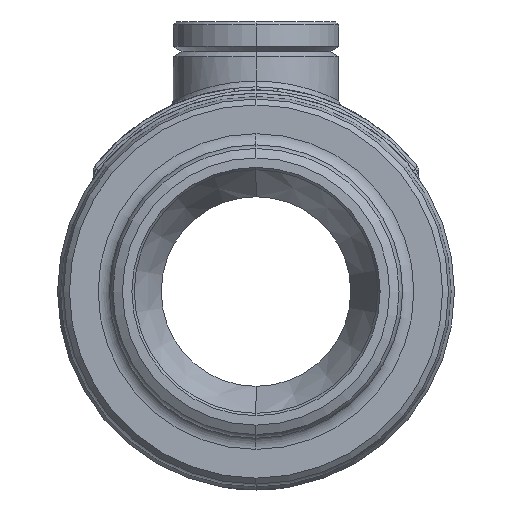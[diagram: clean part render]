
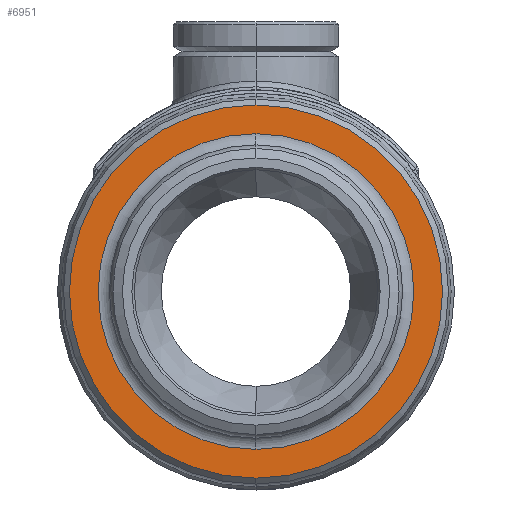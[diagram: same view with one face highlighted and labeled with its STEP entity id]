
A CAD part, left-side view. The second image highlights one B-rep face of the part: STEP entity #6951.
In plain terms, the highlighted planar face has unit normal (-1, 0, 0).
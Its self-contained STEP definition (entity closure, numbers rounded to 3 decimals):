
#995=CARTESIAN_POINT('',(-48.,0.,0.));
#996=DIRECTION('',(-1.,0.,0.));
#997=DIRECTION('',(0.,0.,1.));
#998=AXIS2_PLACEMENT_3D('',#995,#996,#997);
#1000=CARTESIAN_POINT('',(-48.,0.,0.));
#1001=DIRECTION('',(1.,0.,0.));
#1002=DIRECTION('',(0.,0.,1.));
#1003=AXIS2_PLACEMENT_3D('',#1000,#1001,#1002);
#1005=CARTESIAN_POINT('',(-48.,0.,0.));
#1006=DIRECTION('',(1.,0.,0.));
#1007=DIRECTION('',(0.,0.,1.));
#1008=AXIS2_PLACEMENT_3D('',#1005,#1006,#1007);
#1010=CARTESIAN_POINT('',(-48.,0.,0.));
#1011=DIRECTION('',(-1.,0.,0.));
#1012=DIRECTION('',(0.,0.,1.));
#1013=AXIS2_PLACEMENT_3D('',#1010,#1011,#1012);
#4901=CARTESIAN_POINT('',(-48.,0.,26.65));
#4903=VERTEX_POINT('',#4901);
#4905=CARTESIAN_POINT('',(-48.,0.,-26.65));
#4907=VERTEX_POINT('',#4905);
#4933=CARTESIAN_POINT('',(-48.,0.,31.5));
#4934=CARTESIAN_POINT('',(-48.,0.,-31.5));
#4935=VERTEX_POINT('',#4933);
#4936=VERTEX_POINT('',#4934);
#6936=CARTESIAN_POINT('',(-48.,0.,0.));
#6937=DIRECTION('',(1.,0.,0.));
#6938=DIRECTION('',(0.,0.,1.));
#6939=AXIS2_PLACEMENT_3D('',#6936,#6937,#6938);
#6940=PLANE('',#6939);
#6942=ORIENTED_EDGE('',*,*,#6941,.T.);
#6944=ORIENTED_EDGE('',*,*,#6943,.F.);
#6945=EDGE_LOOP('',(#6942,#6944));
#6946=FACE_OUTER_BOUND('',#6945,.F.);
#6947=ORIENTED_EDGE('',*,*,#6918,.T.);
#6948=ORIENTED_EDGE('',*,*,#6929,.F.);
#6949=EDGE_LOOP('',(#6947,#6948));
#6950=FACE_BOUND('',#6949,.F.);
#6951=ADVANCED_FACE('',(#6946,#6950),#6940,.F.);
#999=CIRCLE('',#998,26.65);
#1004=CIRCLE('',#1003,26.65);
#1009=CIRCLE('',#1008,31.5);
#1014=CIRCLE('',#1013,31.5);
#6918=EDGE_CURVE('',#4903,#4907,#999,.T.);
#6929=EDGE_CURVE('',#4903,#4907,#1004,.T.);
#6941=EDGE_CURVE('',#4935,#4936,#1009,.T.);
#6943=EDGE_CURVE('',#4935,#4936,#1014,.T.);
